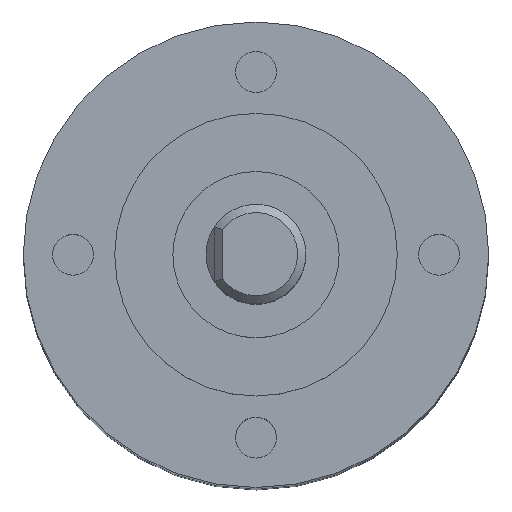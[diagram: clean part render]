
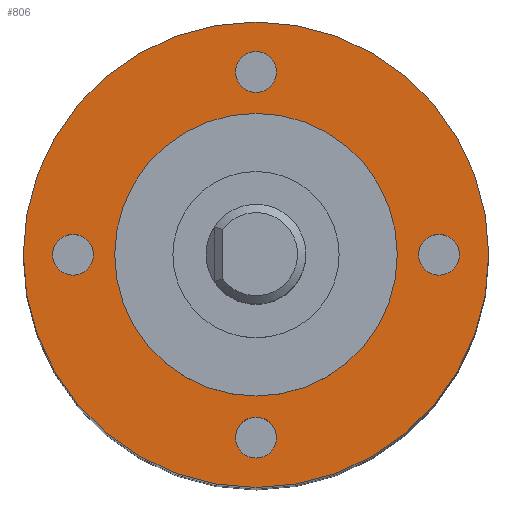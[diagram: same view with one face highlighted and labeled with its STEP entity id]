
A CAD part, top view. The second image highlights one B-rep face of the part: STEP entity #806.
In plain terms, the highlighted planar face has unit normal (0, 0, 1).
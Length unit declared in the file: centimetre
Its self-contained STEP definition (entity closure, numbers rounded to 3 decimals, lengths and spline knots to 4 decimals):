
#259=VERTEX_POINT('',#2510);
#306=VERTEX_POINT('',#2652);
#308=VERTEX_POINT('',#2658);
#310=VERTEX_POINT('',#2664);
#312=VERTEX_POINT('',#2670);
#323=VERTEX_POINT('',#2712);
#329=EDGE_CURVE('',#259,#259,#1125,.T.);
#396=EDGE_CURVE('',#306,#306,#1140,.T.);
#398=EDGE_CURVE('',#308,#308,#1142,.T.);
#400=EDGE_CURVE('',#310,#310,#1144,.T.);
#402=EDGE_CURVE('',#312,#312,#1146,.T.);
#417=EDGE_CURVE('',#323,#323,#1153,.T.);
#598=ORIENTED_EDGE('',*,*,#396,.T.);
#599=ORIENTED_EDGE('',*,*,#398,.T.);
#600=ORIENTED_EDGE('',*,*,#400,.T.);
#601=ORIENTED_EDGE('',*,*,#402,.T.);
#602=ORIENTED_EDGE('',*,*,#417,.T.);
#603=ORIENTED_EDGE('',*,*,#329,.F.);
#674=EDGE_LOOP('',(#598));
#675=EDGE_LOOP('',(#599));
#676=EDGE_LOOP('',(#600));
#677=EDGE_LOOP('',(#601));
#678=EDGE_LOOP('',(#602));
#679=EDGE_LOOP('',(#603));
#750=FACE_BOUND('',#674,.T.);
#751=FACE_BOUND('',#675,.T.);
#752=FACE_BOUND('',#676,.T.);
#753=FACE_BOUND('',#677,.T.);
#754=FACE_BOUND('',#678,.T.);
#755=FACE_BOUND('',#679,.T.);
#806=ADVANCED_FACE('',(#750,#751,#752,#753,#754,#755),#1963,.T.);
#1125=CIRCLE('',#1739,1.4);
#1140=CIRCLE('',#1782,0.123);
#1142=CIRCLE('',#1786,0.123);
#1144=CIRCLE('',#1790,0.123);
#1146=CIRCLE('',#1794,0.123);
#1153=CIRCLE('',#1812,0.85);
#1739=AXIS2_PLACEMENT_3D('',#2509,#2154,#2155);
#1782=AXIS2_PLACEMENT_3D('',#2651,#2271,#2272);
#1786=AXIS2_PLACEMENT_3D('',#2657,#2278,#2279);
#1790=AXIS2_PLACEMENT_3D('',#2663,#2285,#2286);
#1794=AXIS2_PLACEMENT_3D('',#2669,#2292,#2293);
#1812=AXIS2_PLACEMENT_3D('',#2711,#2327,#2328);
#1814=AXIS2_PLACEMENT_3D('',#2714,#2330,$);
#1963=PLANE('',#1814);
#2154=DIRECTION('',(0.,0.,-1.));
#2155=DIRECTION('',(1.4,0.,0.));
#2271=DIRECTION('',(0.,0.,-1.));
#2272=DIRECTION('',(0.,0.123,0.));
#2278=DIRECTION('',(0.,0.,-1.));
#2279=DIRECTION('',(0.,0.123,0.));
#2285=DIRECTION('',(0.,0.,-1.));
#2286=DIRECTION('',(0.,0.123,0.));
#2292=DIRECTION('',(0.,0.,-1.));
#2293=DIRECTION('',(0.,0.123,0.));
#2327=DIRECTION('',(0.,0.,-1.));
#2328=DIRECTION('',(0.85,0.,0.));
#2330=DIRECTION('',(0.,0.,1.));
#2509=CARTESIAN_POINT('',(0.,0.,8.6));
#2510=CARTESIAN_POINT('',(1.4,0.,8.6));
#2651=CARTESIAN_POINT('',(-1.1,0.,8.6));
#2652=CARTESIAN_POINT('',(-1.1,0.123,8.6));
#2657=CARTESIAN_POINT('',(0.,-1.1,8.6));
#2658=CARTESIAN_POINT('',(0.,-0.9771,8.6));
#2663=CARTESIAN_POINT('',(1.1,0.,8.6));
#2664=CARTESIAN_POINT('',(1.1,0.123,8.6));
#2669=CARTESIAN_POINT('',(0.,1.1,8.6));
#2670=CARTESIAN_POINT('',(0.,1.223,8.6));
#2711=CARTESIAN_POINT('',(0.,0.,8.6));
#2712=CARTESIAN_POINT('',(0.85,0.,8.6));
#2714=CARTESIAN_POINT('',(0.,0.,8.6));
